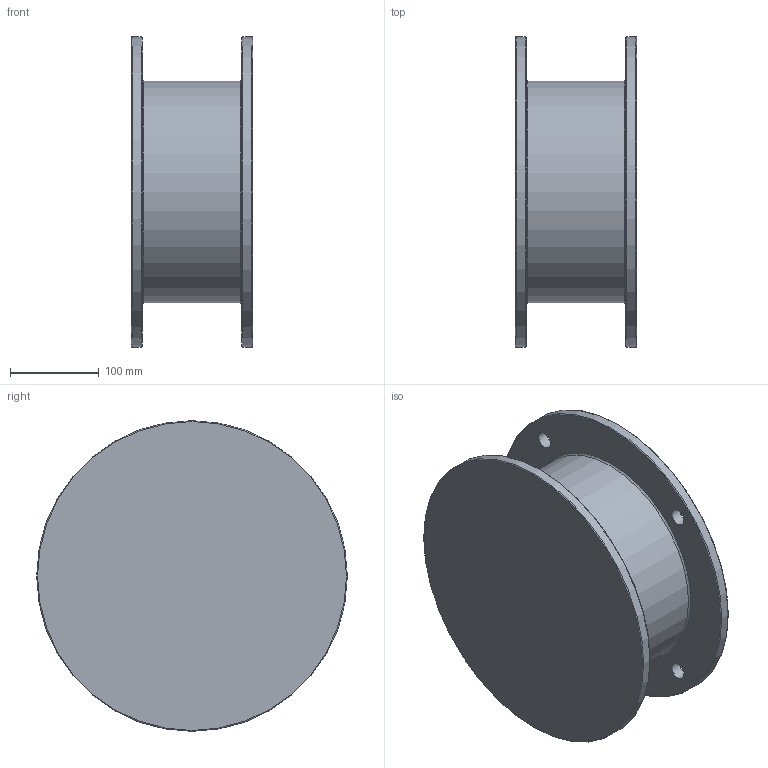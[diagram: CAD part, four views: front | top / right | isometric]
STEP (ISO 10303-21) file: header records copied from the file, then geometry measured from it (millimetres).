
FILE_DESCRIPTION((''),'2;1');
FILE_NAME('D:\PAWEŁ\ZLECENIA\2011 DualSystem\Przekładnie DR\DR100\STEP\160_B5_L136,5.stp','2012-06-11T12:28:56',('admin'),(''),'Autodesk Inventor 2009','Autodesk Inventor 2009','');
FILE_SCHEMA(('AUTOMOTIVE_DESIGN { 1 0 10303 214 1 1 1 1 }'));
Length unit declared in the file: millimetre
Products named in the file (1): 160_B5_L136,5
Bounding box: 136.5 x 350 x 350 mm (x, y, z)
Volume: 2552587.3 mm3; surface area: 532994.7 mm2
Topology: 1 solids, 1 shells, 29 faces, 56 edges, 35 vertices
Faces by surface type: plane 11, cylinder 7, bspline 6, torus 5
Full cylindrical faces by diameter (mm): 72 x1, 238 x1, 250 x2, 350 x2
Entity records: 857 total; most frequent: CARTESIAN_POINT 260, DIRECTION 116, ORIENTED_EDGE 78, EDGE_LOOP 60, AXIS2_PLACEMENT_3D 53, EDGE_CURVE 39, VERTEX_POINT 35, FACE_BOUND 31
